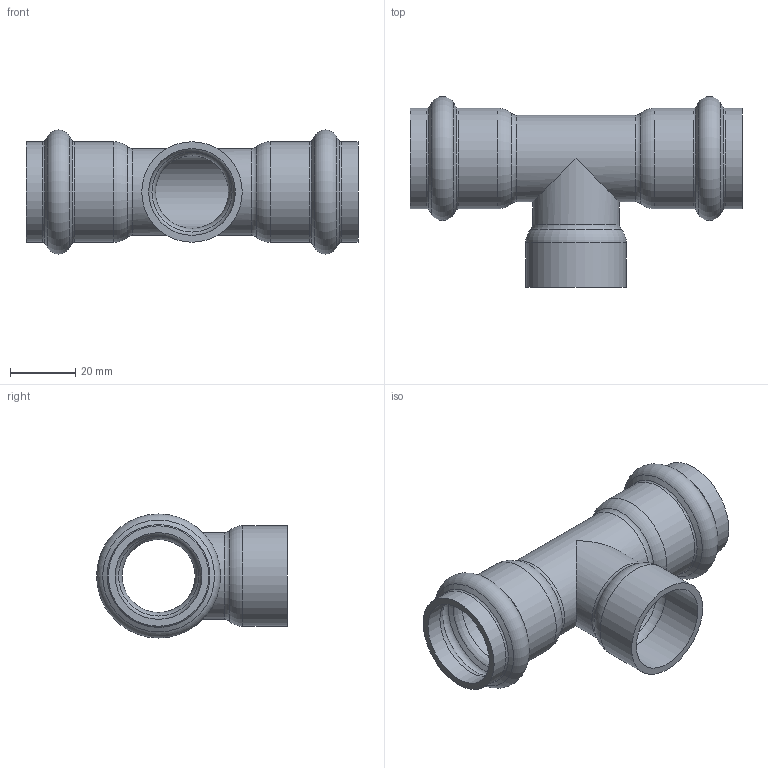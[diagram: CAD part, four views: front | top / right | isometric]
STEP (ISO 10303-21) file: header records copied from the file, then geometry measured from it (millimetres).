
FILE_DESCRIPTION(/* description */ ('VIC TEE RED. BRANCH STYLE P588 (P x P x F)','CAx-IF Rec.Pracs.---Representation and Presentation of Product Manufacturing Information (PMI)---4.0---2014-10-13'),/* implementation_level */ '2;1');
FILE_NAME(/* name */ 'C:\Users\Vjadhav\AppData\Roaming\Autodesk\ApplicationPlugins\Back Up\Victaulic_SS-Vic-Press-TP 304_Tee Threaded_Style P588 (VPxFPT)\Victaulic_SS-Vic-Press-TP 304_Tee Threaded_Style P588 (VPxFPT)_0.75x0.75 (20x20).stp',/* time_stamp */ '2020-08-12T18:49:38+05:00',/* author */ ('cgray'),/* organization */ ('Victaulic'),/* preprocessor_version */ 'ST-DEVELOPER v17.2',/* originating_system */ 'Autodesk Inventor 2019',/* authorisation */ '');
FILE_SCHEMA (('AP242_MANAGED_MODEL_BASED_3D_ENGINEERING_MIM_LF { 1 0 10303 442 1 1 4 }'));
Length unit declared in the file: inch
Products named in the file (1): P588-0.75x0.75
Bounding box: 102.11 x 58.7 x 38.15 mm (x, y, z)
Volume: 24777.9 mm3; surface area: 24066.1 mm2
Topology: 1 solids, 1 shells, 49 faces, 184 edges, 136 vertices
Faces by surface type: torus 24, cylinder 14, cone 8, plane 3
Full cylindrical faces by diameter (mm): 22.454 x2, 26.67 x7, 30.886 x5
Entity records: 2307 total; most frequent: DIRECTION 470, CARTESIAN_POINT 387, ORIENTED_EDGE 368, AXIS2_PLACEMENT_3D 223, EDGE_CURVE 184, CIRCLE 152, VERTEX_POINT 136, EDGE_LOOP 52
